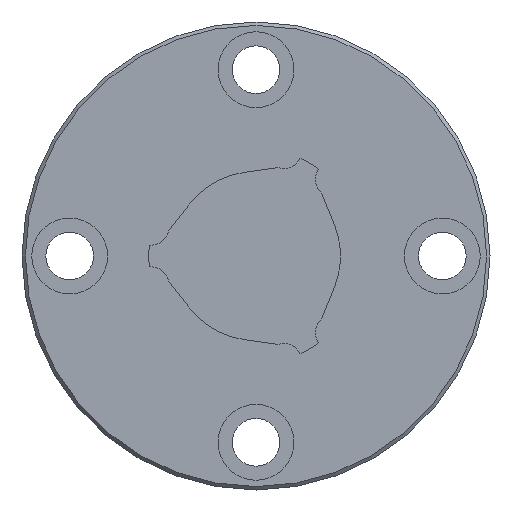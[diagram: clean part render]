
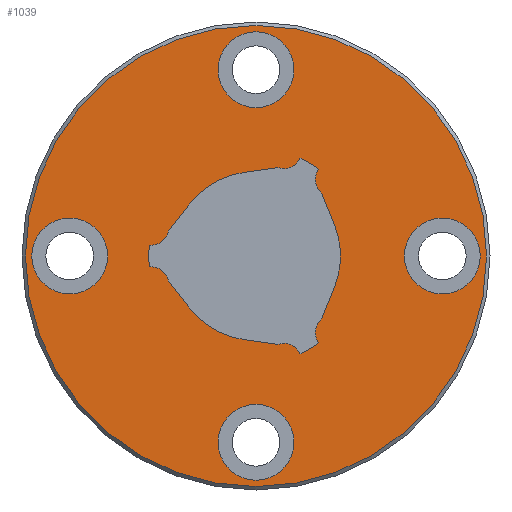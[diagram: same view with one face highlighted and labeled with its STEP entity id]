
A CAD part, left-side view. The second image highlights one B-rep face of the part: STEP entity #1039.
In plain terms, the highlighted planar face has unit normal (-1, 0, 0).
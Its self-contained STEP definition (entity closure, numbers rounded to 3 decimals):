
#45=PLANE('',#1156);
#91=LINE('',#1728,#151);
#92=LINE('',#1737,#152);
#93=LINE('',#1741,#153);
#94=LINE('',#1749,#154);
#95=LINE('',#1753,#155);
#96=LINE('',#1761,#156);
#151=VECTOR('',#1389,1000.);
#152=VECTOR('',#1396,1000.);
#153=VECTOR('',#1399,1000.);
#154=VECTOR('',#1406,1000.);
#155=VECTOR('',#1409,1000.);
#156=VECTOR('',#1416,1000.);
#289=ORIENTED_EDGE('',*,*,#513,.F.);
#290=ORIENTED_EDGE('',*,*,#514,.F.);
#291=ORIENTED_EDGE('',*,*,#515,.T.);
#292=ORIENTED_EDGE('',*,*,#516,.T.);
#293=ORIENTED_EDGE('',*,*,#517,.T.);
#294=ORIENTED_EDGE('',*,*,#518,.T.);
#295=ORIENTED_EDGE('',*,*,#519,.F.);
#296=ORIENTED_EDGE('',*,*,#520,.T.);
#297=ORIENTED_EDGE('',*,*,#521,.F.);
#298=ORIENTED_EDGE('',*,*,#522,.T.);
#299=ORIENTED_EDGE('',*,*,#523,.T.);
#300=ORIENTED_EDGE('',*,*,#524,.T.);
#301=ORIENTED_EDGE('',*,*,#525,.F.);
#302=ORIENTED_EDGE('',*,*,#526,.T.);
#303=ORIENTED_EDGE('',*,*,#527,.F.);
#304=ORIENTED_EDGE('',*,*,#528,.T.);
#305=ORIENTED_EDGE('',*,*,#529,.T.);
#306=ORIENTED_EDGE('',*,*,#530,.T.);
#307=ORIENTED_EDGE('',*,*,#531,.F.);
#308=ORIENTED_EDGE('',*,*,#532,.T.);
#309=ORIENTED_EDGE('',*,*,#533,.F.);
#310=ORIENTED_EDGE('',*,*,#534,.T.);
#311=ORIENTED_EDGE('',*,*,#535,.T.);
#513=EDGE_CURVE('',#634,#634,#725,.T.);
#514=EDGE_CURVE('',#635,#635,#726,.F.);
#515=EDGE_CURVE('',#636,#636,#727,.T.);
#516=EDGE_CURVE('',#637,#637,#728,.T.);
#517=EDGE_CURVE('',#638,#638,#729,.T.);
#518=EDGE_CURVE('',#639,#640,#91,.T.);
#519=EDGE_CURVE('',#641,#640,#730,.T.);
#520=EDGE_CURVE('',#641,#642,#731,.T.);
#521=EDGE_CURVE('',#643,#642,#732,.T.);
#522=EDGE_CURVE('',#643,#644,#92,.T.);
#523=EDGE_CURVE('',#644,#645,#733,.T.);
#524=EDGE_CURVE('',#645,#646,#93,.T.);
#525=EDGE_CURVE('',#647,#646,#734,.T.);
#526=EDGE_CURVE('',#647,#648,#735,.T.);
#527=EDGE_CURVE('',#649,#648,#736,.T.);
#528=EDGE_CURVE('',#649,#650,#94,.T.);
#529=EDGE_CURVE('',#650,#651,#737,.T.);
#530=EDGE_CURVE('',#651,#652,#95,.T.);
#531=EDGE_CURVE('',#653,#652,#738,.T.);
#532=EDGE_CURVE('',#653,#654,#739,.T.);
#533=EDGE_CURVE('',#655,#654,#740,.T.);
#534=EDGE_CURVE('',#655,#656,#96,.T.);
#535=EDGE_CURVE('',#656,#639,#741,.T.);
#634=VERTEX_POINT('',#1719);
#635=VERTEX_POINT('',#1721);
#636=VERTEX_POINT('',#1723);
#637=VERTEX_POINT('',#1725);
#638=VERTEX_POINT('',#1727);
#639=VERTEX_POINT('',#1729);
#640=VERTEX_POINT('',#1730);
#641=VERTEX_POINT('',#1732);
#642=VERTEX_POINT('',#1734);
#643=VERTEX_POINT('',#1736);
#644=VERTEX_POINT('',#1738);
#645=VERTEX_POINT('',#1740);
#646=VERTEX_POINT('',#1742);
#647=VERTEX_POINT('',#1744);
#648=VERTEX_POINT('',#1746);
#649=VERTEX_POINT('',#1748);
#650=VERTEX_POINT('',#1750);
#651=VERTEX_POINT('',#1752);
#652=VERTEX_POINT('',#1754);
#653=VERTEX_POINT('',#1756);
#654=VERTEX_POINT('',#1758);
#655=VERTEX_POINT('',#1760);
#656=VERTEX_POINT('',#1762);
#725=CIRCLE('',#1157,53.2);
#726=CIRCLE('',#1158,8.75);
#727=CIRCLE('',#1159,8.75);
#728=CIRCLE('',#1160,8.75);
#729=CIRCLE('',#1161,8.75);
#730=CIRCLE('',#1162,4.13);
#731=CIRCLE('',#1163,24.75);
#732=CIRCLE('',#1164,4.13);
#733=CIRCLE('',#1165,19.5);
#734=CIRCLE('',#1166,4.13);
#735=CIRCLE('',#1167,24.75);
#736=CIRCLE('',#1168,4.13);
#737=CIRCLE('',#1169,19.5);
#738=CIRCLE('',#1170,4.13);
#739=CIRCLE('',#1171,24.75);
#740=CIRCLE('',#1172,4.13);
#741=CIRCLE('',#1173,19.5);
#797=EDGE_LOOP('',(#289));
#798=EDGE_LOOP('',(#290));
#799=EDGE_LOOP('',(#291));
#800=EDGE_LOOP('',(#292));
#801=EDGE_LOOP('',(#293));
#802=EDGE_LOOP('',(#294,#295,#296,#297,#298,#299,#300,#301,#302,#303,#304,
#305,#306,#307,#308,#309,#310,#311));
#899=FACE_BOUND('',#797,.T.);
#900=FACE_BOUND('',#798,.T.);
#901=FACE_BOUND('',#799,.T.);
#902=FACE_BOUND('',#800,.T.);
#903=FACE_BOUND('',#801,.T.);
#904=FACE_BOUND('',#802,.T.);
#1039=ADVANCED_FACE('',(#899,#900,#901,#902,#903,#904),#45,.F.);
#1156=AXIS2_PLACEMENT_3D('',#1717,#1377,#1378);
#1157=AXIS2_PLACEMENT_3D('',#1718,#1379,#1380);
#1158=AXIS2_PLACEMENT_3D('',#1720,#1381,#1382);
#1159=AXIS2_PLACEMENT_3D('',#1722,#1383,#1384);
#1160=AXIS2_PLACEMENT_3D('',#1724,#1385,#1386);
#1161=AXIS2_PLACEMENT_3D('',#1726,#1387,#1388);
#1162=AXIS2_PLACEMENT_3D('',#1731,#1390,#1391);
#1163=AXIS2_PLACEMENT_3D('',#1733,#1392,#1393);
#1164=AXIS2_PLACEMENT_3D('',#1735,#1394,#1395);
#1165=AXIS2_PLACEMENT_3D('',#1739,#1397,#1398);
#1166=AXIS2_PLACEMENT_3D('',#1743,#1400,#1401);
#1167=AXIS2_PLACEMENT_3D('',#1745,#1402,#1403);
#1168=AXIS2_PLACEMENT_3D('',#1747,#1404,#1405);
#1169=AXIS2_PLACEMENT_3D('',#1751,#1407,#1408);
#1170=AXIS2_PLACEMENT_3D('',#1755,#1410,#1411);
#1171=AXIS2_PLACEMENT_3D('',#1757,#1412,#1413);
#1172=AXIS2_PLACEMENT_3D('',#1759,#1414,#1415);
#1173=AXIS2_PLACEMENT_3D('',#1763,#1417,#1418);
#1377=DIRECTION('',(1.,0.,0.));
#1378=DIRECTION('',(0.,1.,0.));
#1379=DIRECTION('',(1.,0.,0.));
#1380=DIRECTION('',(0.,1.,0.));
#1381=DIRECTION('',(1.,0.,0.));
#1382=DIRECTION('',(0.,1.,0.));
#1383=DIRECTION('',(1.,0.,0.));
#1384=DIRECTION('',(0.,0.,-1.));
#1385=DIRECTION('',(1.,0.,0.));
#1386=DIRECTION('',(0.,0.,-1.));
#1387=DIRECTION('',(1.,0.,0.));
#1388=DIRECTION('',(0.,0.,-1.));
#1389=DIRECTION('',(0.,-0.99,0.139));
#1390=DIRECTION('',(1.,0.,0.));
#1391=DIRECTION('',(0.,0.,-1.));
#1392=DIRECTION('',(1.,0.,0.));
#1393=DIRECTION('',(0.,0.,-1.));
#1394=DIRECTION('',(1.,0.,0.));
#1395=DIRECTION('',(0.,0.,-1.));
#1396=DIRECTION('',(0.,-0.375,-0.927));
#1397=DIRECTION('',(1.,0.,0.));
#1398=DIRECTION('',(0.,0.,-1.));
#1399=DIRECTION('',(0.,0.375,-0.927));
#1400=DIRECTION('',(1.,0.,0.));
#1401=DIRECTION('',(0.,0.,-1.));
#1402=DIRECTION('',(1.,0.,0.));
#1403=DIRECTION('',(0.,0.,-1.));
#1404=DIRECTION('',(1.,0.,0.));
#1405=DIRECTION('',(0.,0.,-1.));
#1406=DIRECTION('',(0.,0.99,0.139));
#1407=DIRECTION('',(1.,0.,0.));
#1408=DIRECTION('',(0.,0.,-1.));
#1409=DIRECTION('',(0.,0.616,0.788));
#1410=DIRECTION('',(1.,0.,0.));
#1411=DIRECTION('',(0.,0.,-1.));
#1412=DIRECTION('',(1.,0.,0.));
#1413=DIRECTION('',(0.,0.,-1.));
#1414=DIRECTION('',(1.,0.,0.));
#1415=DIRECTION('',(0.,0.,-1.));
#1416=DIRECTION('',(0.,-0.616,0.788));
#1417=DIRECTION('',(1.,0.,0.));
#1418=DIRECTION('',(0.,0.,-1.));
#1717=CARTESIAN_POINT('',(0.,0.,0.));
#1718=CARTESIAN_POINT('',(0.,0.,0.));
#1719=CARTESIAN_POINT('',(0.,53.2,0.));
#1720=CARTESIAN_POINT('',(0.,43.,0.));
#1721=CARTESIAN_POINT('',(0.,51.75,0.));
#1722=CARTESIAN_POINT('',(0.,0.,43.));
#1723=CARTESIAN_POINT('',(0.,0.,34.25));
#1724=CARTESIAN_POINT('',(0.,-43.,0.));
#1725=CARTESIAN_POINT('',(0.,-43.,-8.75));
#1726=CARTESIAN_POINT('',(0.,0.,-43.));
#1727=CARTESIAN_POINT('',(0.,0.,-51.75));
#1728=CARTESIAN_POINT('',(0.,2.714,19.31));
#1729=CARTESIAN_POINT('',(0.,2.714,19.31));
#1730=CARTESIAN_POINT('',(0.,-5.006,20.395));
#1731=CARTESIAN_POINT('',(0.,-6.39,24.287));
#1732=CARTESIAN_POINT('',(0.,-10.148,22.574));
#1733=CARTESIAN_POINT('',(0.,0.,0.));
#1734=CARTESIAN_POINT('',(0.,-14.476,20.075));
#1735=CARTESIAN_POINT('',(0.,-17.838,17.677));
#1736=CARTESIAN_POINT('',(0.,-15.16,14.533));
#1737=CARTESIAN_POINT('',(0.,-15.16,14.533));
#1738=CARTESIAN_POINT('',(0.,-18.08,7.305));
#1739=CARTESIAN_POINT('',(0.,0.,0.));
#1740=CARTESIAN_POINT('',(0.,-18.08,-7.305));
#1741=CARTESIAN_POINT('',(0.,-18.08,-7.305));
#1742=CARTESIAN_POINT('',(0.,-15.16,-14.533));
#1743=CARTESIAN_POINT('',(0.,-17.838,-17.677));
#1744=CARTESIAN_POINT('',(0.,-14.476,-20.075));
#1745=CARTESIAN_POINT('',(0.,0.,0.));
#1746=CARTESIAN_POINT('',(0.,-10.148,-22.574));
#1747=CARTESIAN_POINT('',(0.,-6.39,-24.287));
#1748=CARTESIAN_POINT('',(0.,-5.006,-20.395));
#1749=CARTESIAN_POINT('',(0.,-5.006,-20.395));
#1750=CARTESIAN_POINT('',(0.,2.714,-19.31));
#1751=CARTESIAN_POINT('',(0.,0.,0.));
#1752=CARTESIAN_POINT('',(0.,15.366,-12.005));
#1753=CARTESIAN_POINT('',(0.,15.366,-12.005));
#1754=CARTESIAN_POINT('',(0.,20.166,-5.862));
#1755=CARTESIAN_POINT('',(0.,24.228,-6.61));
#1756=CARTESIAN_POINT('',(0.,24.624,-2.499));
#1757=CARTESIAN_POINT('',(0.,0.,0.));
#1758=CARTESIAN_POINT('',(0.,24.624,2.499));
#1759=CARTESIAN_POINT('',(0.,24.228,6.61));
#1760=CARTESIAN_POINT('',(0.,20.166,5.862));
#1761=CARTESIAN_POINT('',(0.,20.166,5.862));
#1762=CARTESIAN_POINT('',(0.,15.366,12.005));
#1763=CARTESIAN_POINT('',(0.,0.,0.));
